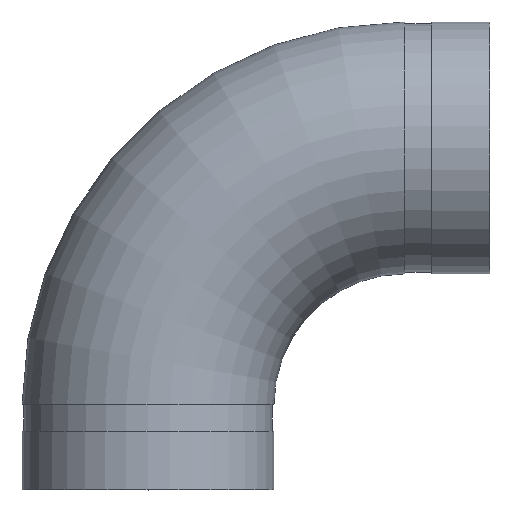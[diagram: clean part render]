
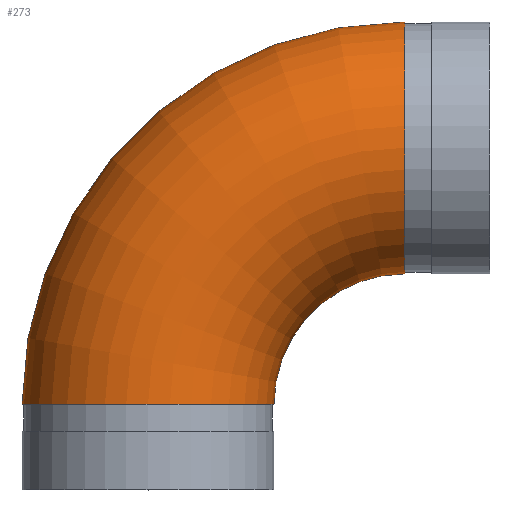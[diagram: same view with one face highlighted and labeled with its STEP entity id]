
A CAD part, top view. The second image highlights one B-rep face of the part: STEP entity #273.
In plain terms, the highlighted toroidal (fillet/blend) face has major radius 90.551 mm and minor radius 44.45 mm.
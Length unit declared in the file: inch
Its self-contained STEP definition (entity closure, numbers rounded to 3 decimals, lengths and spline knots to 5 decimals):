
#46=TOROIDAL_SURFACE('',#329,3.565,1.75);
#81=FACE_OUTER_BOUND('',#99,.T.);
#99=EDGE_LOOP('',(#227,#228,#229,#230,#231,#232));
#105=CIRCLE('',#298,1.75);
#106=CIRCLE('',#299,1.75);
#117=CIRCLE('',#315,1.75);
#118=CIRCLE('',#316,1.75);
#127=CIRCLE('',#330,1.815);
#129=VERTEX_POINT('',#460);
#130=VERTEX_POINT('',#461);
#141=VERTEX_POINT('',#491);
#142=VERTEX_POINT('',#492);
#151=EDGE_CURVE('',#129,#130,#105,.T.);
#152=EDGE_CURVE('',#130,#129,#106,.T.);
#165=EDGE_CURVE('',#141,#142,#117,.T.);
#166=EDGE_CURVE('',#142,#141,#118,.T.);
#178=EDGE_CURVE('',#142,#130,#127,.T.);
#227=ORIENTED_EDGE('',*,*,#165,.F.);
#228=ORIENTED_EDGE('',*,*,#166,.F.);
#229=ORIENTED_EDGE('',*,*,#178,.T.);
#230=ORIENTED_EDGE('',*,*,#152,.T.);
#231=ORIENTED_EDGE('',*,*,#151,.T.);
#232=ORIENTED_EDGE('',*,*,#178,.F.);
#273=ADVANCED_FACE('',(#81),#46,.T.);
#298=AXIS2_PLACEMENT_3D('',#462,#352,#353);
#299=AXIS2_PLACEMENT_3D('',#463,#354,#355);
#315=AXIS2_PLACEMENT_3D('',#493,#388,#389);
#316=AXIS2_PLACEMENT_3D('',#494,#390,#391);
#329=AXIS2_PLACEMENT_3D('',#517,#419,#420);
#330=AXIS2_PLACEMENT_3D('',#518,#421,#422);
#352=DIRECTION('center_axis',(-1.,0.,0.));
#353=DIRECTION('ref_axis',(0.,-1.,0.));
#354=DIRECTION('center_axis',(-1.,0.,0.));
#355=DIRECTION('ref_axis',(0.,-1.,0.));
#388=DIRECTION('center_axis',(0.,-1.,0.));
#389=DIRECTION('ref_axis',(1.,0.,0.));
#390=DIRECTION('center_axis',(0.,-1.,0.));
#391=DIRECTION('ref_axis',(1.,0.,0.));
#419=DIRECTION('center_axis',(0.,0.,1.));
#420=DIRECTION('ref_axis',(1.,0.,0.));
#421=DIRECTION('center_axis',(0.,0.,-1.));
#422=DIRECTION('ref_axis',(1.,0.,0.));
#460=CARTESIAN_POINT('',(3.565,6.5,0.));
#461=CARTESIAN_POINT('',(3.565,3.,0.));
#462=CARTESIAN_POINT('Origin',(3.565,4.75,0.));
#463=CARTESIAN_POINT('Origin',(3.565,4.75,0.));
#491=CARTESIAN_POINT('',(-1.75,1.185,0.));
#492=CARTESIAN_POINT('',(1.75,1.185,0.));
#493=CARTESIAN_POINT('Origin',(0.,1.185,0.));
#494=CARTESIAN_POINT('Origin',(0.,1.185,0.));
#517=CARTESIAN_POINT('Origin',(3.565,1.185,0.));
#518=CARTESIAN_POINT('Origin',(3.565,1.185,0.));
